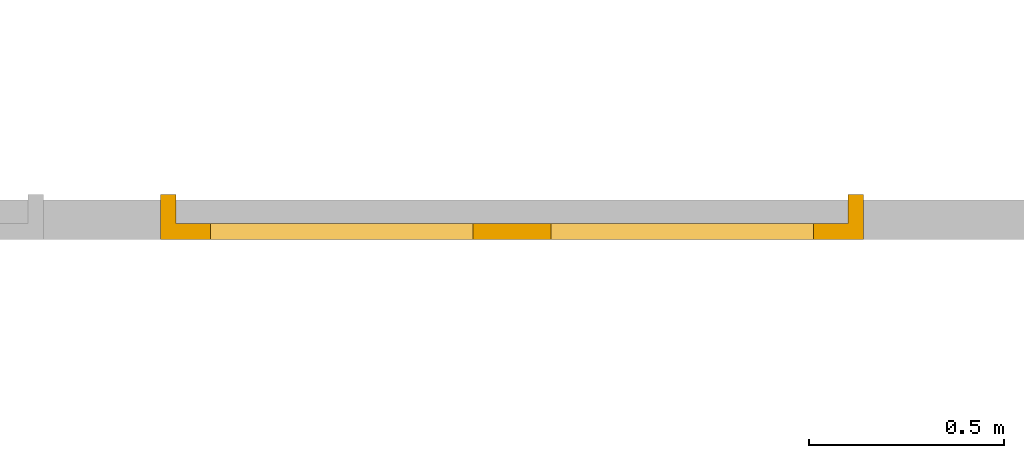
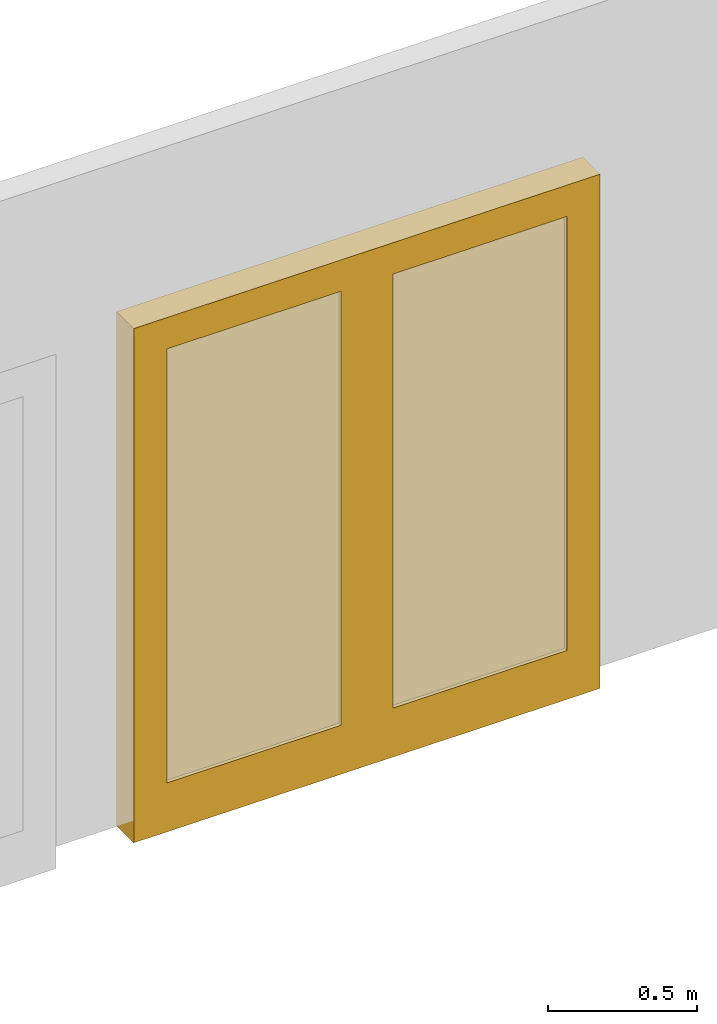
# One storey, part 8 of 22: 1 door.
"""IFC2X3 building model written with IfcOpenShell, lengths in millimetres."""

import ifcopenshell
import ifcopenshell.guid

model = None  # the IFC model being written
_history = None  # IfcOwnerHistory: only IFC2X3 demands one
_inside = {}  # id of a spatial element -> (the spatial element, [elements in it])
_under = {}  # id of a project, library or spatial element -> (it, [spatial elements below it])
_declared = {}  # id of a project -> (the project, [libraries it declares])
_typed = {}  # id of a type object -> (the type object, [elements of that type])
_made_of = {}  # id of a material, layer set ... -> (it, [elements and type objects made of it])


def new_model(schema):
    """Start an empty IFC model of exactly this schema.

    Asked for "IFC4X3", IfcOpenShell would pick the latest addendum, in which some entities
    have other attributes; the version numbers below select the first issue.
    IFC2X3 requires an IfcOwnerHistory on every rooted entity: one is made here for all.
    """
    global model, _history
    if schema == "IFC4X3":
        model = ifcopenshell.file(schema_version=(4, 3, 0, 0))
    else:
        model = ifcopenshell.file(schema=schema)
    _inside.clear()
    _under.clear()
    _declared.clear()
    _typed.clear()
    _made_of.clear()
    _history = None
    if model.schema == "IFC2X3":
        org = make("IfcOrganization", Name="unknown")
        user = make(
            "IfcPersonAndOrganization",
            ThePerson=make("IfcPerson", FamilyName="unknown"),
            TheOrganization=org,
        )
        app = make(
            "IfcApplication",
            ApplicationDeveloper=org,
            Version="unknown",
            ApplicationFullName="unknown",
            ApplicationIdentifier="unknown",
        )
        _history = make(
            "IfcOwnerHistory",
            OwningUser=user,
            OwningApplication=app,
            ChangeAction="ADDED",
            CreationDate=0,
        )
    return model


def make(cls, **values):
    """One entity of the class cls with the attributes given. An attribute that is None is left unset."""
    return model.create_entity(
        cls, **{name: value for name, value in values.items() if value is not None}
    )


def entity(cls, *values):
    """Any entity or typed value of the class cls, its attributes in the order of the schema. None: left unset."""
    e = model.create_entity(cls)
    for i, value in enumerate(values):
        if value is not None:
            e[i] = value
    return e


def rooted(cls, **values):
    """An entity with a GlobalId (a new one), such as an element, a storey or a relation."""
    return make(cls, GlobalId=ifcopenshell.guid.new(), OwnerHistory=_history, **values)


def si_unit(unit_type, name, prefix=None):
    """IfcSIUnit, for example si_unit("LENGTHUNIT", "METRE", prefix="MILLI")."""
    return make("IfcSIUnit", UnitType=unit_type, Prefix=prefix, Name=name)


def converted_unit(unit_type, name, factor, base, dimensions=None, offset=None):
    """IfcConversionBasedUnit, such as the inch: factor (a typed value) times the base unit."""
    return make(
        "IfcConversionBasedUnit"
        if offset is None
        else "IfcConversionBasedUnitWithOffset",
        ConversionOffset=offset,
        Dimensions=None
        if dimensions is None
        else entity("IfcDimensionalExponents", *dimensions),
        UnitType=unit_type,
        Name=name,
        ConversionFactor=make(
            "IfcMeasureWithUnit", ValueComponent=factor, UnitComponent=base
        ),
    )


def derived_unit(unit_type, elements):
    """IfcDerivedUnit: a product of units, each with its exponent."""
    return make(
        "IfcDerivedUnit",
        Elements=[
            make("IfcDerivedUnitElement", Unit=unit, Exponent=power)
            for unit, power in elements
        ],
        UnitType=unit_type,
    )


def assignment(units):
    """IfcUnitAssignment: the units of a project."""
    return None if units is None else make("IfcUnitAssignment", Units=units)


def point(xyz):
    """IfcCartesianPoint."""
    return None if xyz is None else make("IfcCartesianPoint", Coordinates=xyz)


def direction(xyz):
    """IfcDirection."""
    return None if xyz is None else make("IfcDirection", DirectionRatios=xyz)


def frame(location, z_axis=None, x_axis=None):
    """IfcAxis2Placement3D, a coordinate frame: its origin and axes. An axis left out is left unset."""
    return make(
        "IfcAxis2Placement3D",
        Location=point(location),
        Axis=direction(z_axis),
        RefDirection=direction(x_axis),
    )


def origin():
    """The frame at (0, 0, 0) with its axes left unset."""
    return frame((0.0, 0.0, 0.0))


def place(relative_to, where):
    """IfcLocalPlacement: puts the frame where relative to a parent placement (None: the world)."""
    return make(
        "IfcLocalPlacement", PlacementRelTo=relative_to, RelativePlacement=where
    )


def context(
    kind, dimensions, precision=None, world=None, true_north=None, identifier=None
):
    """IfcGeometricRepresentationContext, for example the 3D "Model" context."""
    return make(
        "IfcGeometricRepresentationContext",
        ContextIdentifier=identifier,
        ContextType=kind,
        CoordinateSpaceDimension=dimensions,
        Precision=precision,
        WorldCoordinateSystem=world,
        TrueNorth=true_north,
    )


def subcontext(parent, identifier, kind, view, scale=None):
    """IfcGeometricRepresentationSubContext, for example "Body" below "Model"."""
    return make(
        "IfcGeometricRepresentationSubContext",
        ContextIdentifier=identifier,
        ContextType=kind,
        ParentContext=parent,
        TargetScale=scale,
        TargetView=view,
    )


def project(units=None, contexts=None):
    """IfcProject with its units and contexts."""
    return rooted(
        "IfcProject",
        Name="project",
        RepresentationContexts=contexts,
        UnitsInContext=assignment(units),
    )


def spatial(cls, under=None, at=None, **own):
    """A site, building, storey or space (cls), placed at a placement, below another one or the project."""
    s = rooted(cls, ObjectPlacement=at, **own)
    if under is not None:
        _under.setdefault(under.id(), (under, []))[1].append(s)
    return s


def faces_of(points, faces, orient=None, outer=None):
    """IfcFace entities. A face is a list of loops; a loop is a list of indices into points, from 0.

    orient and outer hold one flag for each loop. By default every Orientation is true, the
    first loop of a face is its IfcFaceOuterBound and the others are IfcFaceBound.
    """
    made = []
    for i, loops in enumerate(faces):
        bounds = []
        for j, loop in enumerate(loops):
            is_outer = j == 0 if outer is None else outer[i][j]
            bounds.append(
                make(
                    "IfcFaceOuterBound" if is_outer else "IfcFaceBound",
                    Bound=make("IfcPolyLoop", Polygon=[points[k] for k in loop]),
                    Orientation=True if orient is None else orient[i][j],
                )
            )
        made.append(make("IfcFace", Bounds=bounds))
    return made


def face_set(faces, orient=None, outer=None):
    """The faces of one IfcConnectedFaceSet. surface_model builds it on its shared points."""
    return ("IfcConnectedFaceSet", faces, orient, outer)


def surface_model(cls, points, shells):
    """IfcFaceBasedSurfaceModel or IfcShellBasedSurfaceModel (cls): surfaces that need not close."""
    shared = [point(p) for p in points]
    made = [make(c, CfsFaces=faces_of(shared, fs, o, b)) for c, fs, o, b in shells]
    if cls == "IfcFaceBasedSurfaceModel":
        return make(cls, FbsmFaces=made)
    return make(cls, SbsmBoundary=made)


def shape(context_of_items, identifier, shape_type, items):
    """IfcShapeRepresentation: the items that make up one representation, for example the "Body"."""
    return make(
        "IfcShapeRepresentation",
        ContextOfItems=context_of_items,
        RepresentationIdentifier=identifier,
        RepresentationType=shape_type,
        Items=items,
    )


def source(mapping_origin, context_of_items, identifier, shape_type, items):
    """IfcRepresentationMap: a shape defined once, which mapped items show again and again."""
    return make(
        "IfcRepresentationMap",
        MappingOrigin=mapping_origin,
        MappedRepresentation=shape(context_of_items, identifier, shape_type, items),
    )


def transform(
    local_origin,
    x_axis=None,
    y_axis=None,
    z_axis=None,
    scale=None,
    scale2=None,
    scale3=None,
    uniform=True,
):
    """IfcCartesianTransformationOperator3D, or its non-uniform kind. x_axis, y_axis, z_axis: its Axis1, 2, 3."""
    if uniform:
        return make(
            "IfcCartesianTransformationOperator3D",
            Axis1=direction(x_axis),
            Axis2=direction(y_axis),
            LocalOrigin=point(local_origin),
            Scale=scale,
            Axis3=direction(z_axis),
        )
    return make(
        "IfcCartesianTransformationOperator3DnonUniform",
        Axis1=direction(x_axis),
        Axis2=direction(y_axis),
        LocalOrigin=point(local_origin),
        Scale=scale,
        Axis3=direction(z_axis),
        Scale2=scale2,
        Scale3=scale3,
    )


def mapped(mapping_source, mapping_target):
    """IfcMappedItem: shows the shape of a source again, moved by a transform."""
    return make(
        "IfcMappedItem", MappingSource=mapping_source, MappingTarget=mapping_target
    )


def material(Name=None, Category=None):
    """IfcMaterial."""
    return make("IfcMaterial", Name=Name, Category=Category)


def material_list(materials):
    """IfcMaterialList."""
    return make("IfcMaterialList", Materials=materials)


def made_of(thing, what):
    """Note that an element or type object is made of a material, layer set ...; save() writes the relation."""
    if what is not None:
        _made_of.setdefault(what.id(), (what, []))[1].append(thing)
    return thing


def type_object(cls, material=None, **own):
    """A type object (cls), such as IfcWallType, which elements share."""
    return made_of(rooted(cls, **own), material)


def type_shapes(of_type, sources):
    """Give a type object the sources (RepresentationMaps) that its elements show as mapped items."""
    of_type.RepresentationMaps = sources


def element(
    cls,
    number,
    at=None,
    inside=None,
    cuts=None,
    type_object=None,
    material=None,
    context=None,
    identifier="Body",
    shape_type=None,
    held_by="IfcProductDefinitionShape",
    body=None,
    shapes=None,
    **own,
):
    """One element of the class cls, such as IfcWall. Its Tag is "e" and its number.

    at: its placement. inside: the storey or other place that contains it. cuts: it is an
    opening in that element (IfcRelVoidsElement). A single representation is given by context,
    identifier, shape_type and body (its items); several are given by shapes. held_by: the class
    of the entity that holds the representations. save() writes the other relations.
    """
    e = rooted(cls, Tag="e%d" % number, ObjectPlacement=at, **own)
    if body is not None:
        shapes = [shape(context, identifier, shape_type, body)]
    if shapes is not None:
        e.Representation = make(held_by, Representations=shapes)
    if inside is not None:
        _inside.setdefault(inside.id(), (inside, []))[1].append(e)
    if cuts is not None:
        rooted(
            "IfcRelVoidsElement", RelatingBuildingElement=cuts, RelatedOpeningElement=e
        )
    if type_object is not None:
        _typed.setdefault(type_object.id(), (type_object, []))[1].append(e)
    return made_of(e, material)


def aggregate(whole, parts):
    """IfcRelAggregates: a whole, such as a stair, and the parts it consists of."""
    return rooted("IfcRelAggregates", RelatingObject=whole, RelatedObjects=parts)


def save(model, path):
    """Write the relations noted so far, then the file.

    IfcRelAggregates (storeys below a building ...), IfcRelContainedInSpatialStructure (elements
    in a storey), IfcRelDefinesByType, IfcRelAssociatesMaterial and IfcRelDeclares: one each for
    every whole, place, type object, material and project.
    """
    for whole, parts in _under.values():
        aggregate(whole, parts)
    for where, things in _inside.values():
        rooted(
            "IfcRelContainedInSpatialStructure",
            RelatedElements=things,
            RelatingStructure=where,
        )
    for kind, things in _typed.values():
        rooted("IfcRelDefinesByType", RelatedObjects=things, RelatingType=kind)
    for what, things in _made_of.values():
        rooted("IfcRelAssociatesMaterial", RelatedObjects=things, RelatingMaterial=what)
    for by, libraries in _declared.values():
        rooted("IfcRelDeclares", RelatingContext=by, RelatedDefinitions=libraries)
    model.write(path)


model = new_model("IFC2X3")

# Units and contexts
model_context = context("Model", 3, precision=0.01, world=origin(), true_north=direction((6.12303176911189e-17, 1.0)))
body_context = subcontext(model_context, "Body", "Model", "MODEL_VIEW")
ifc_project = project(units=[si_unit("LENGTHUNIT", "METRE", prefix="MILLI"), si_unit("AREAUNIT", "SQUARE_METRE"), si_unit("VOLUMEUNIT", "CUBIC_METRE"), converted_unit("PLANEANGLEUNIT", "DEGREE", entity("IfcRatioMeasure", 0.0174532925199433), si_unit("PLANEANGLEUNIT", "RADIAN"), dimensions=[0, 0, 0, 0, 0, 0, 0]), si_unit("MASSUNIT", "GRAM", prefix="KILO"), derived_unit("MASSDENSITYUNIT", [(si_unit("MASSUNIT", "GRAM", prefix="KILO"), 1), (si_unit("LENGTHUNIT", "METRE"), -3)]), si_unit("TIMEUNIT", "SECOND"), si_unit("FREQUENCYUNIT", "HERTZ"), si_unit("THERMODYNAMICTEMPERATUREUNIT", "DEGREE_CELSIUS"), derived_unit("THERMALTRANSMITTANCEUNIT", [(si_unit("MASSUNIT", "GRAM", prefix="KILO"), 1), (si_unit("THERMODYNAMICTEMPERATUREUNIT", "KELVIN"), -1), (si_unit("TIMEUNIT", "SECOND"), -3)]), derived_unit("VOLUMETRICFLOWRATEUNIT", [(si_unit("LENGTHUNIT", "METRE"), 3), (si_unit("TIMEUNIT", "SECOND"), -1)]), si_unit("ELECTRICCURRENTUNIT", "AMPERE"), si_unit("ELECTRICVOLTAGEUNIT", "VOLT"), si_unit("POWERUNIT", "WATT"), si_unit("FORCEUNIT", "NEWTON", prefix="KILO"), si_unit("ILLUMINANCEUNIT", "LUX"), si_unit("LUMINOUSFLUXUNIT", "LUMEN"), si_unit("LUMINOUSINTENSITYUNIT", "CANDELA"), derived_unit("USERDEFINED", [(si_unit("MASSUNIT", "GRAM", prefix="KILO"), -1), (si_unit("LENGTHUNIT", "METRE"), -2), (si_unit("TIMEUNIT", "SECOND"), 3), (si_unit("LUMINOUSFLUXUNIT", "LUMEN"), 1)]), derived_unit("LINEARVELOCITYUNIT", [(si_unit("LENGTHUNIT", "METRE"), 1), (si_unit("TIMEUNIT", "SECOND"), -1)]), si_unit("PRESSUREUNIT", "PASCAL"), derived_unit("USERDEFINED", [(si_unit("LENGTHUNIT", "METRE"), -2), (si_unit("MASSUNIT", "GRAM", prefix="KILO"), 1), (si_unit("TIMEUNIT", "SECOND"), -2)])], contexts=[model_context])

# Site, building, storey
site_placement = place(None, origin())
site = spatial("IfcSite", under=ifc_project, at=site_placement, Name="Default", CompositionType="ELEMENT")
building_placement = place(site_placement, origin())
building = spatial("IfcBuilding", under=site, at=building_placement, CompositionType="ELEMENT")
storey_placement = place(building_placement, frame((0.0, 0.0, -3000.0)))
storey = spatial("IfcBuildingStorey", under=building, at=storey_placement, Name="-2. Story", CompositionType="ELEMENT", Elevation=-3000.0)

# Door
ifc_material_1 = material(Name="Paint - Titanium White")
ifc_material_2 = material(Name="Glass - Clear Fast")
ifc_material_list_1 = material_list([ifc_material_1, ifc_material_2])
ifc_material_list_2 = material_list([ifc_material_1, ifc_material_2])
door_style = type_object("IfcDoorStyle", Name="DOO - 002", ConstructionType="NOTDEFINED", OperationType="DOUBLE_DOOR_SINGLE_SWING", ParameterTakesPrecedence=False, Sizeable=False, material=ifc_material_list_2)
shared_shape = source(origin(), body_context, "Body", "SurfaceModel", [
    surface_model("IfcFaceBasedSurfaceModel", [(82918.8569215, 74543.1569014, -3000.0), (82918.8569215, 74543.1569014, -940.0), (82918.8569215, 74618.1569014, -940.0), (82918.8569215, 74618.1569014, -3000.0), (82930.8569215, 74543.1569014, -940.0), (82918.8569215, 74543.1569014, -940.0), (82918.8569215, 74543.1569014, -3000.0), (82930.8569215, 74543.1569014, -3000.0), (82930.8569215, 74543.1569014, -940.0), (82930.8569215, 74503.1569014, -940.0), (82958.8569215, 74503.1569014, -940.0), (82958.8569215, 74618.1569014, -940.0), (82918.8569215, 74618.1569014, -940.0), (82918.8569215, 74543.1569014, -940.0), (82918.8569215, 74618.1569014, -3000.0), (82918.8569215, 74618.1569014, -940.0), (82958.8569215, 74618.1569014, -940.0), (82958.8569215, 74618.1569014, -3000.0), (82930.8569215, 74543.1569014, -3000.0), (82918.8569215, 74543.1569014, -3000.0), (82918.8569215, 74618.1569014, -3000.0), (82958.8569215, 74618.1569014, -3000.0), (82958.8569215, 74503.1569014, -3000.0), (82930.8569215, 74503.1569014, -3000.0), (82930.8569215, 74503.1569014, -940.0), (82930.8569215, 74543.1569014, -940.0), (82930.8569215, 74543.1569014, -3000.0), (82930.8569215, 74503.1569014, -3000.0), (82930.8569215, 74503.1569014, -940.0), (82930.8569215, 74503.1569014, -3000.0), (82958.8569215, 74503.1569014, -3000.0), (82958.8569215, 74503.1569014, -940.0), (82958.8569215, 74503.1569014, -3000.0), (82958.8569215, 74618.1569014, -3000.0), (82958.8569215, 74618.1569014, -940.0), (82958.8569215, 74503.1569014, -940.0), (81186.8569215, 74543.1569014, -940.0), (81198.8569215, 74543.1569014, -940.0), (81198.8569215, 74618.1569014, -940.0), (81158.8569215, 74618.1569014, -940.0), (81158.8569215, 74503.1569014, -940.0), (81186.8569215, 74503.1569014, -940.0), (81198.8569215, 74543.1569014, -940.0), (81186.8569215, 74543.1569014, -940.0), (81186.8569215, 74543.1569014, -3000.0), (81198.8569215, 74543.1569014, -3000.0), (81198.8569215, 74543.1569014, -940.0), (81198.8569215, 74543.1569014, -3000.0), (81198.8569215, 74618.1569014, -3000.0), (81198.8569215, 74618.1569014, -940.0), (81158.8569215, 74618.1569014, -940.0), (81198.8569215, 74618.1569014, -940.0), (81198.8569215, 74618.1569014, -3000.0), (81158.8569215, 74618.1569014, -3000.0), (81158.8569215, 74503.1569014, -940.0), (81158.8569215, 74618.1569014, -940.0), (81158.8569215, 74618.1569014, -3000.0), (81158.8569215, 74503.1569014, -3000.0), (81186.8569215, 74503.1569014, -3000.0), (81186.8569215, 74503.1569014, -940.0), (81158.8569215, 74503.1569014, -940.0), (81158.8569215, 74503.1569014, -3000.0), (81186.8569215, 74543.1569014, -940.0), (81186.8569215, 74503.1569014, -940.0), (81186.8569215, 74503.1569014, -3000.0), (81186.8569215, 74543.1569014, -3000.0), (81186.8569215, 74543.1569014, -3000.0), (81186.8569215, 74503.1569014, -3000.0), (81158.8569215, 74503.1569014, -3000.0), (81158.8569215, 74618.1569014, -3000.0), (81198.8569215, 74618.1569014, -3000.0), (81198.8569215, 74543.1569014, -3000.0), (82930.8569215, 74503.1569014, -928.0), (82930.8569215, 74503.1569014, -940.0), (82958.8569215, 74503.1569014, -940.0), (82958.8569215, 74503.1569014, -900.0), (81158.8569215, 74503.1569014, -900.0), (81158.8569215, 74503.1569014, -940.0), (81186.8569215, 74503.1569014, -940.0), (81186.8569215, 74503.1569014, -928.0), (82930.8569215, 74503.1569014, -940.0), (82930.8569215, 74503.1569014, -928.0), (82930.8569215, 74543.1569014, -928.0), (82930.8569215, 74543.1569014, -940.0), (82930.8569215, 74543.1569014, -940.0), (82918.8569215, 74543.1569014, -940.0), (82918.8569215, 74618.1569014, -940.0), (82958.8569215, 74618.1569014, -940.0), (82958.8569215, 74503.1569014, -940.0), (82930.8569215, 74503.1569014, -940.0), (82958.8569215, 74503.1569014, -940.0), (82958.8569215, 74618.1569014, -940.0), (82958.8569215, 74618.1569014, -900.0), (82958.8569215, 74503.1569014, -900.0), (82958.8569215, 74503.1569014, -900.0), (82958.8569215, 74618.1569014, -900.0), (81158.8569215, 74618.1569014, -900.0), (81158.8569215, 74503.1569014, -900.0), (81158.8569215, 74503.1569014, -900.0), (81158.8569215, 74618.1569014, -900.0), (81158.8569215, 74618.1569014, -940.0), (81158.8569215, 74503.1569014, -940.0), (81186.8569215, 74543.1569014, -940.0), (81186.8569215, 74503.1569014, -940.0), (81158.8569215, 74503.1569014, -940.0), (81158.8569215, 74618.1569014, -940.0), (81198.8569215, 74618.1569014, -940.0), (81198.8569215, 74543.1569014, -940.0), (81186.8569215, 74503.1569014, -928.0), (81186.8569215, 74503.1569014, -940.0), (81186.8569215, 74543.1569014, -940.0), (81186.8569215, 74543.1569014, -928.0), (82930.8569215, 74503.1569014, -928.0), (81186.8569215, 74503.1569014, -928.0), (81186.8569215, 74543.1569014, -928.0), (82930.8569215, 74543.1569014, -928.0), (81186.8569215, 74543.1569014, -940.0), (81198.8569215, 74543.1569014, -940.0), (82918.8569215, 74543.1569014, -940.0), (82930.8569215, 74543.1569014, -940.0), (82930.8569215, 74543.1569014, -928.0), (81186.8569215, 74543.1569014, -928.0), (82918.8569215, 74543.1569014, -940.0), (81198.8569215, 74543.1569014, -940.0), (81198.8569215, 74618.1569014, -940.0), (82918.8569215, 74618.1569014, -940.0), (81198.8569215, 74618.1569014, -940.0), (81158.8569215, 74618.1569014, -940.0), (81158.8569215, 74618.1569014, -900.0), (82958.8569215, 74618.1569014, -900.0), (82958.8569215, 74618.1569014, -940.0), (82918.8569215, 74618.1569014, -940.0), (81186.8569215, 74503.1569014, -2800.0), (81186.8569215, 74543.1569014, -2800.0), (81286.8569215, 74543.1569014, -2800.0), (81286.8569215, 74503.1569014, -2800.0), (81186.8569215, 74503.1569014, -1028.0), (81186.8569215, 74543.1569014, -1028.0), (81186.8569215, 74543.1569014, -2800.0), (81186.8569215, 74503.1569014, -2800.0), (81186.8569215, 74543.1569014, -2800.0), (81186.8569215, 74543.1569014, -1028.0), (81286.8569215, 74543.1569014, -1028.0), (81286.8569215, 74543.1569014, -2800.0), (81286.8569215, 74503.1569014, -2800.0), (81286.8569215, 74543.1569014, -2800.0), (81286.8569215, 74543.1569014, -1028.0), (81286.8569215, 74503.1569014, -1028.0), (81186.8569215, 74503.1569014, -2800.0), (81286.8569215, 74503.1569014, -2800.0), (81286.8569215, 74503.1569014, -1028.0), (81186.8569215, 74503.1569014, -1028.0), (81286.8569215, 74503.1569014, -1028.0), (81286.8569215, 74543.1569014, -1028.0), (81186.8569215, 74543.1569014, -1028.0), (81186.8569215, 74503.1569014, -1028.0), (82058.8569215, 74503.1569014, -2800.0), (82058.8569215, 74543.1569014, -2800.0), (82058.8569215, 74543.1569014, -1028.0), (82058.8569215, 74503.1569014, -1028.0), (81958.8569215, 74503.1569014, -2800.0), (81958.8569215, 74543.1569014, -2800.0), (82058.8569215, 74543.1569014, -2800.0), (82058.8569215, 74503.1569014, -2800.0), (82058.8569215, 74543.1569014, -2800.0), (81958.8569215, 74543.1569014, -2800.0), (81958.8569215, 74543.1569014, -1028.0), (82058.8569215, 74543.1569014, -1028.0), (82058.8569215, 74503.1569014, -1028.0), (82058.8569215, 74543.1569014, -1028.0), (81958.8569215, 74543.1569014, -1028.0), (81958.8569215, 74503.1569014, -1028.0), (82058.8569215, 74503.1569014, -2800.0), (82058.8569215, 74503.1569014, -1028.0), (81958.8569215, 74503.1569014, -1028.0), (81958.8569215, 74503.1569014, -2800.0), (81958.8569215, 74503.1569014, -1028.0), (81958.8569215, 74543.1569014, -1028.0), (81958.8569215, 74543.1569014, -2800.0), (81958.8569215, 74503.1569014, -2800.0), (81186.8569215, 74503.1569014, -3000.0), (81186.8569215, 74543.1569014, -3000.0), (82058.8569215, 74543.1569014, -3000.0), (82058.8569215, 74503.1569014, -3000.0), (81186.8569215, 74503.1569014, -2800.0), (81186.8569215, 74543.1569014, -2800.0), (81186.8569215, 74543.1569014, -3000.0), (81186.8569215, 74503.1569014, -3000.0), (81186.8569215, 74543.1569014, -3000.0), (81186.8569215, 74543.1569014, -2800.0), (81286.8569215, 74543.1569014, -2800.0), (81958.8569215, 74543.1569014, -2800.0), (82058.8569215, 74543.1569014, -2800.0), (82058.8569215, 74543.1569014, -3000.0), (82058.8569215, 74503.1569014, -3000.0), (82058.8569215, 74543.1569014, -3000.0), (82058.8569215, 74543.1569014, -2800.0), (82058.8569215, 74503.1569014, -2800.0), (81186.8569215, 74503.1569014, -3000.0), (82058.8569215, 74503.1569014, -3000.0), (82058.8569215, 74503.1569014, -2800.0), (81958.8569215, 74503.1569014, -2800.0), (81286.8569215, 74503.1569014, -2800.0), (81186.8569215, 74503.1569014, -2800.0), (81286.8569215, 74503.1569014, -2800.0), (81286.8569215, 74543.1569014, -2800.0), (81186.8569215, 74543.1569014, -2800.0), (81186.8569215, 74503.1569014, -2800.0), (81958.8569215, 74503.1569014, -2800.0), (81958.8569215, 74543.1569014, -2800.0), (81286.8569215, 74543.1569014, -2800.0), (81286.8569215, 74503.1569014, -2800.0), (82058.8569215, 74503.1569014, -2800.0), (82058.8569215, 74543.1569014, -2800.0), (81958.8569215, 74543.1569014, -2800.0), (81958.8569215, 74503.1569014, -2800.0), (81186.8569215, 74503.1569014, -928.0), (81186.8569215, 74543.1569014, -928.0), (81186.8569215, 74543.1569014, -1028.0), (81186.8569215, 74503.1569014, -1028.0), (82058.8569215, 74503.1569014, -928.0), (82058.8569215, 74543.1569014, -928.0), (81186.8569215, 74543.1569014, -928.0), (81186.8569215, 74503.1569014, -928.0), (81186.8569215, 74543.1569014, -928.0), (82058.8569215, 74543.1569014, -928.0), (82058.8569215, 74543.1569014, -1028.0), (81958.8569215, 74543.1569014, -1028.0), (81286.8569215, 74543.1569014, -1028.0), (81186.8569215, 74543.1569014, -1028.0), (81186.8569215, 74503.1569014, -1028.0), (81186.8569215, 74543.1569014, -1028.0), (81286.8569215, 74543.1569014, -1028.0), (81286.8569215, 74503.1569014, -1028.0), (81186.8569215, 74503.1569014, -928.0), (81186.8569215, 74503.1569014, -1028.0), (81286.8569215, 74503.1569014, -1028.0), (81958.8569215, 74503.1569014, -1028.0), (82058.8569215, 74503.1569014, -1028.0), (82058.8569215, 74503.1569014, -928.0), (82058.8569215, 74503.1569014, -1028.0), (82058.8569215, 74543.1569014, -1028.0), (82058.8569215, 74543.1569014, -928.0), (82058.8569215, 74503.1569014, -928.0), (81958.8569215, 74503.1569014, -1028.0), (81958.8569215, 74543.1569014, -1028.0), (82058.8569215, 74543.1569014, -1028.0), (82058.8569215, 74503.1569014, -1028.0), (81286.8569215, 74503.1569014, -1028.0), (81286.8569215, 74543.1569014, -1028.0), (81958.8569215, 74543.1569014, -1028.0), (81958.8569215, 74503.1569014, -1028.0), (82930.8569215, 74503.1569014, -2800.0), (82830.8569215, 74503.1569014, -2800.0), (82830.8569215, 74543.1569014, -2800.0), (82930.8569215, 74543.1569014, -2800.0), (82930.8569215, 74503.1569014, -2800.0), (82930.8569215, 74503.1569014, -1028.0), (82830.8569215, 74503.1569014, -1028.0), (82830.8569215, 74503.1569014, -2800.0), (82830.8569215, 74503.1569014, -2800.0), (82830.8569215, 74503.1569014, -1028.0), (82830.8569215, 74543.1569014, -1028.0), (82830.8569215, 74543.1569014, -2800.0), (82930.8569215, 74543.1569014, -2800.0), (82830.8569215, 74543.1569014, -2800.0), (82830.8569215, 74543.1569014, -1028.0), (82930.8569215, 74543.1569014, -1028.0), (82930.8569215, 74503.1569014, -1028.0), (82930.8569215, 74503.1569014, -2800.0), (82930.8569215, 74543.1569014, -2800.0), (82930.8569215, 74543.1569014, -1028.0), (82830.8569215, 74503.1569014, -1028.0), (82930.8569215, 74503.1569014, -1028.0), (82930.8569215, 74543.1569014, -1028.0), (82830.8569215, 74543.1569014, -1028.0), (82058.8569215, 74503.1569014, -2800.0), (82058.8569215, 74503.1569014, -1028.0), (82058.8569215, 74543.1569014, -1028.0), (82058.8569215, 74543.1569014, -2800.0), (82058.8569215, 74503.1569014, -2800.0), (82158.8569215, 74503.1569014, -2800.0), (82158.8569215, 74503.1569014, -1028.0), (82058.8569215, 74503.1569014, -1028.0), (82058.8569215, 74503.1569014, -1028.0), (82158.8569215, 74503.1569014, -1028.0), (82158.8569215, 74543.1569014, -1028.0), (82058.8569215, 74543.1569014, -1028.0), (82058.8569215, 74543.1569014, -2800.0), (82058.8569215, 74543.1569014, -1028.0), (82158.8569215, 74543.1569014, -1028.0), (82158.8569215, 74543.1569014, -2800.0), (82158.8569215, 74503.1569014, -2800.0), (82058.8569215, 74503.1569014, -2800.0), (82058.8569215, 74543.1569014, -2800.0), (82158.8569215, 74543.1569014, -2800.0), (82158.8569215, 74503.1569014, -1028.0), (82158.8569215, 74503.1569014, -2800.0), (82158.8569215, 74543.1569014, -2800.0), (82158.8569215, 74543.1569014, -1028.0), (82930.8569215, 74503.1569014, -3000.0), (82058.8569215, 74503.1569014, -3000.0), (82058.8569215, 74543.1569014, -3000.0), (82930.8569215, 74543.1569014, -3000.0), (82930.8569215, 74503.1569014, -3000.0), (82930.8569215, 74503.1569014, -2800.0), (82830.8569215, 74503.1569014, -2800.0), (82158.8569215, 74503.1569014, -2800.0), (82058.8569215, 74503.1569014, -2800.0), (82058.8569215, 74503.1569014, -3000.0), (82058.8569215, 74503.1569014, -3000.0), (82058.8569215, 74503.1569014, -2800.0), (82058.8569215, 74543.1569014, -2800.0), (82058.8569215, 74543.1569014, -3000.0), (82930.8569215, 74543.1569014, -3000.0), (82058.8569215, 74543.1569014, -3000.0), (82058.8569215, 74543.1569014, -2800.0), (82158.8569215, 74543.1569014, -2800.0), (82830.8569215, 74543.1569014, -2800.0), (82930.8569215, 74543.1569014, -2800.0), (82930.8569215, 74503.1569014, -2800.0), (82930.8569215, 74503.1569014, -3000.0), (82930.8569215, 74543.1569014, -3000.0), (82930.8569215, 74543.1569014, -2800.0), (82830.8569215, 74503.1569014, -2800.0), (82930.8569215, 74503.1569014, -2800.0), (82930.8569215, 74543.1569014, -2800.0), (82830.8569215, 74543.1569014, -2800.0), (82158.8569215, 74503.1569014, -2800.0), (82830.8569215, 74503.1569014, -2800.0), (82830.8569215, 74543.1569014, -2800.0), (82158.8569215, 74543.1569014, -2800.0), (82058.8569215, 74503.1569014, -2800.0), (82158.8569215, 74503.1569014, -2800.0), (82158.8569215, 74543.1569014, -2800.0), (82058.8569215, 74543.1569014, -2800.0), (82930.8569215, 74503.1569014, -928.0), (82930.8569215, 74503.1569014, -1028.0), (82930.8569215, 74543.1569014, -1028.0), (82930.8569215, 74543.1569014, -928.0), (82930.8569215, 74503.1569014, -928.0), (82058.8569215, 74503.1569014, -928.0), (82058.8569215, 74503.1569014, -1028.0), (82158.8569215, 74503.1569014, -1028.0), (82830.8569215, 74503.1569014, -1028.0), (82930.8569215, 74503.1569014, -1028.0), (82930.8569215, 74503.1569014, -1028.0), (82830.8569215, 74503.1569014, -1028.0), (82830.8569215, 74543.1569014, -1028.0), (82930.8569215, 74543.1569014, -1028.0), (82930.8569215, 74543.1569014, -928.0), (82930.8569215, 74543.1569014, -1028.0), (82830.8569215, 74543.1569014, -1028.0), (82158.8569215, 74543.1569014, -1028.0), (82058.8569215, 74543.1569014, -1028.0), (82058.8569215, 74543.1569014, -928.0), (82058.8569215, 74503.1569014, -928.0), (82930.8569215, 74503.1569014, -928.0), (82930.8569215, 74543.1569014, -928.0), (82058.8569215, 74543.1569014, -928.0), (82058.8569215, 74503.1569014, -1028.0), (82058.8569215, 74503.1569014, -928.0), (82058.8569215, 74543.1569014, -928.0), (82058.8569215, 74543.1569014, -1028.0), (82158.8569215, 74503.1569014, -1028.0), (82058.8569215, 74503.1569014, -1028.0), (82058.8569215, 74543.1569014, -1028.0), (82158.8569215, 74543.1569014, -1028.0), (82830.8569215, 74503.1569014, -1028.0), (82158.8569215, 74503.1569014, -1028.0), (82158.8569215, 74543.1569014, -1028.0), (82830.8569215, 74543.1569014, -1028.0)], [face_set([[[0, 1, 2, 3]]]), face_set([[[4, 5, 6, 7]]]), face_set([[[8, 9, 10, 11, 12, 13]]]), face_set([[[14, 15, 16, 17]]]), face_set([[[18, 19, 20, 21, 22, 23]]]), face_set([[[24, 25, 26, 27]]]), face_set([[[28, 29, 30, 31]]]), face_set([[[32, 33, 34, 35]]]), face_set([[[36, 37, 38, 39, 40, 41]]]), face_set([[[42, 43, 44, 45]]]), face_set([[[46, 47, 48, 49]]]), face_set([[[50, 51, 52, 53]]]), face_set([[[54, 55, 56, 57]]]), face_set([[[58, 59, 60, 61]]]), face_set([[[62, 63, 64, 65]]]), face_set([[[66, 67, 68, 69, 70, 71]]]), face_set([[[72, 73, 74, 75, 76, 77, 78, 79]]]), face_set([[[80, 81, 82, 83]]]), face_set([[[84, 85, 86, 87, 88, 89]]]), face_set([[[90, 91, 92, 93]]]), face_set([[[94, 95, 96, 97]]]), face_set([[[98, 99, 100, 101]]]), face_set([[[102, 103, 104, 105, 106, 107]]]), face_set([[[108, 109, 110, 111]]]), face_set([[[112, 113, 114, 115]]]), face_set([[[116, 117, 118, 119, 120, 121]]]), face_set([[[122, 123, 124, 125]]]), face_set([[[126, 127, 128, 129, 130, 131]]]), face_set([[[132, 133, 134, 135]]]), face_set([[[136, 137, 138, 139]]]), face_set([[[140, 141, 142, 143]]]), face_set([[[144, 145, 146, 147]]]), face_set([[[148, 149, 150, 151]]]), face_set([[[152, 153, 154, 155]]]), face_set([[[156, 157, 158, 159]]]), face_set([[[160, 161, 162, 163]]]), face_set([[[164, 165, 166, 167]]]), face_set([[[168, 169, 170, 171]]]), face_set([[[172, 173, 174, 175]]]), face_set([[[176, 177, 178, 179]]]), face_set([[[180, 181, 182, 183]]]), face_set([[[184, 185, 186, 187]]]), face_set([[[188, 189, 190, 191, 192, 193]]]), face_set([[[194, 195, 196, 197]]]), face_set([[[198, 199, 200, 201, 202, 203]]]), face_set([[[204, 205, 206, 207]]]), face_set([[[208, 209, 210, 211]]]), face_set([[[212, 213, 214, 215]]]), face_set([[[216, 217, 218, 219]]]), face_set([[[220, 221, 222, 223]]]), face_set([[[224, 225, 226, 227, 228, 229]]]), face_set([[[230, 231, 232, 233]]]), face_set([[[234, 235, 236, 237, 238, 239]]]), face_set([[[240, 241, 242, 243]]]), face_set([[[244, 245, 246, 247]]]), face_set([[[248, 249, 250, 251]]]), face_set([[[252, 253, 254, 255]]]), face_set([[[256, 257, 258, 259]]]), face_set([[[260, 261, 262, 263]]]), face_set([[[264, 265, 266, 267]]]), face_set([[[268, 269, 270, 271]]]), face_set([[[272, 273, 274, 275]]]), face_set([[[276, 277, 278, 279]]]), face_set([[[280, 281, 282, 283]]]), face_set([[[284, 285, 286, 287]]]), face_set([[[288, 289, 290, 291]]]), face_set([[[292, 293, 294, 295]]]), face_set([[[296, 297, 298, 299]]]), face_set([[[300, 301, 302, 303]]]), face_set([[[304, 305, 306, 307, 308, 309]]]), face_set([[[310, 311, 312, 313]]]), face_set([[[314, 315, 316, 317, 318, 319]]]), face_set([[[320, 321, 322, 323]]]), face_set([[[324, 325, 326, 327]]]), face_set([[[328, 329, 330, 331]]]), face_set([[[332, 333, 334, 335]]]), face_set([[[336, 337, 338, 339]]]), face_set([[[340, 341, 342, 343, 344, 345]]]), face_set([[[346, 347, 348, 349]]]), face_set([[[350, 351, 352, 353, 354, 355]]]), face_set([[[356, 357, 358, 359]]]), face_set([[[360, 361, 362, 363]]]), face_set([[[364, 365, 366, 367]]]), face_set([[[368, 369, 370, 371]]])]),
    surface_model("IfcFaceBasedSurfaceModel", [(81286.8569215, 74517.1569014, -2800.0), (81958.8569215, 74517.1569014, -2800.0), (81958.8569215, 74517.1569014, -1028.0), (81286.8569215, 74517.1569014, -1028.0), (81286.8569215, 74529.1569014, -2800.0), (81286.8569215, 74529.1569014, -1028.0), (81958.8569215, 74529.1569014, -1028.0), (81958.8569215, 74529.1569014, -2800.0), (82830.8569215, 74517.1569014, -2800.0), (82830.8569215, 74517.1569014, -1028.0), (82158.8569215, 74517.1569014, -1028.0), (82158.8569215, 74517.1569014, -2800.0), (82830.8569215, 74529.1569014, -2800.0), (82158.8569215, 74529.1569014, -2800.0), (82158.8569215, 74529.1569014, -1028.0), (82830.8569215, 74529.1569014, -1028.0)], [face_set([[[0, 1, 2, 3]]]), face_set([[[4, 5, 6, 7]]]), face_set([[[8, 9, 10, 11]]]), face_set([[[12, 13, 14, 15]]])]),
])
type_shapes(door_style, [shared_shape])
door_placement = place(storey_placement, frame((0.0, 0.0, 3000.0)))
element("IfcDoor", 1, at=door_placement, inside=storey, type_object=door_style, material=ifc_material_list_1, Name="DOO - 002 1459265 3:DOO - 002 1459265 3", ObjectType="DOO - 002 1459265 3:DOO - 002 1459265 3", OverallHeight=0.0, OverallWidth=1800.00000000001, context=body_context, shape_type="MappedRepresentation", body=[
    mapped(shared_shape, transform((0.0, 0.0, 0.0), scale=1.0)),
])

save(model, "model.ifc")
